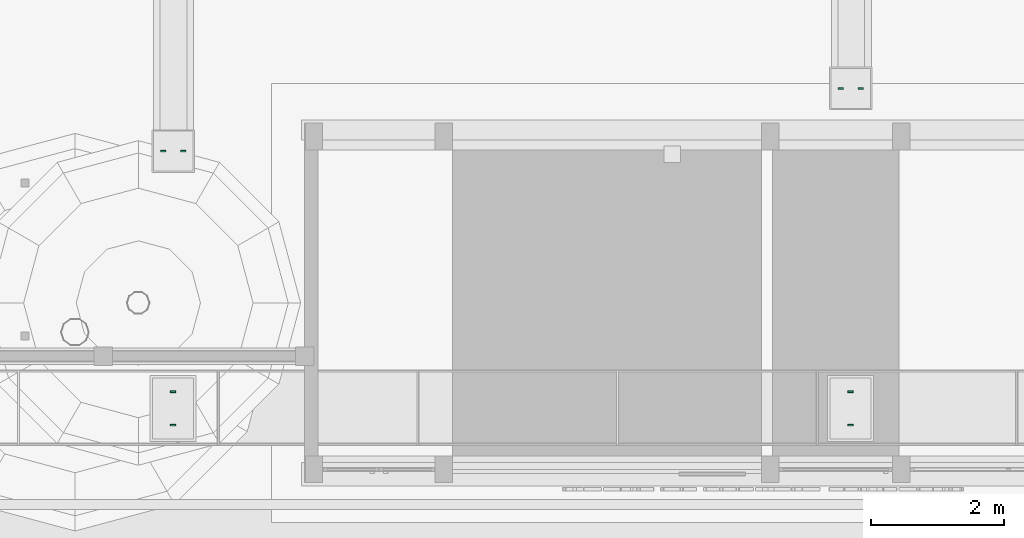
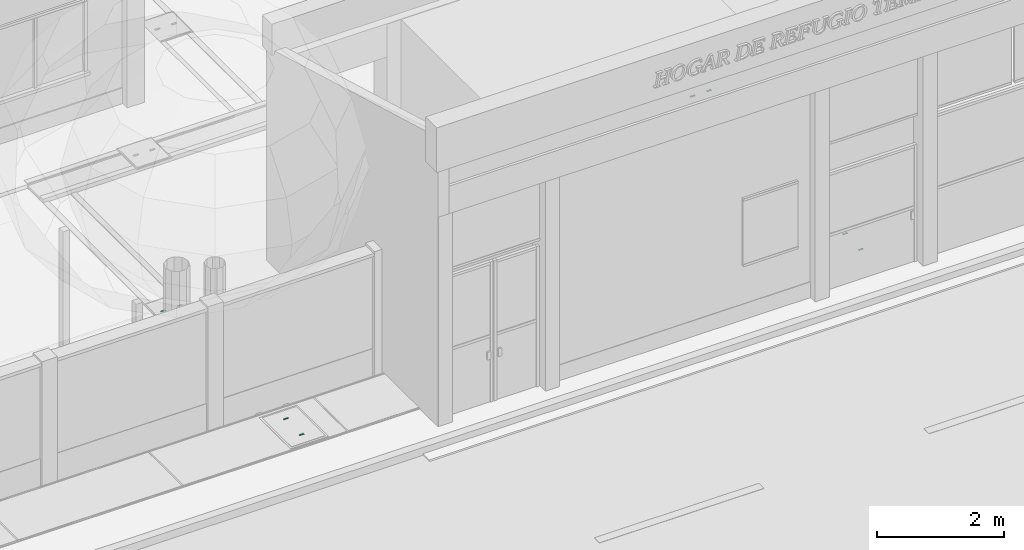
# One storey, part 133 of 177: 8 distribution chamber elements.
"""IFC4 building model written with IfcOpenShell, lengths in metres."""

import ifcopenshell
import ifcopenshell.guid

model = None  # the IFC model being written
_history = None  # IfcOwnerHistory: only IFC2X3 demands one
_inside = {}  # id of a spatial element -> (the spatial element, [elements in it])
_under = {}  # id of a project, library or spatial element -> (it, [spatial elements below it])
_declared = {}  # id of a project -> (the project, [libraries it declares])
_typed = {}  # id of a type object -> (the type object, [elements of that type])
_made_of = {}  # id of a material, layer set ... -> (it, [elements and type objects made of it])


def new_model(schema):
    """Start an empty IFC model of exactly this schema.

    Asked for "IFC4X3", IfcOpenShell would pick the latest addendum, in which some entities
    have other attributes; the version numbers below select the first issue.
    IFC2X3 requires an IfcOwnerHistory on every rooted entity: one is made here for all.
    """
    global model, _history
    if schema == "IFC4X3":
        model = ifcopenshell.file(schema_version=(4, 3, 0, 0))
    else:
        model = ifcopenshell.file(schema=schema)
    _inside.clear()
    _under.clear()
    _declared.clear()
    _typed.clear()
    _made_of.clear()
    _history = None
    if model.schema == "IFC2X3":
        org = make("IfcOrganization", Name="unknown")
        user = make(
            "IfcPersonAndOrganization",
            ThePerson=make("IfcPerson", FamilyName="unknown"),
            TheOrganization=org,
        )
        app = make(
            "IfcApplication",
            ApplicationDeveloper=org,
            Version="unknown",
            ApplicationFullName="unknown",
            ApplicationIdentifier="unknown",
        )
        _history = make(
            "IfcOwnerHistory",
            OwningUser=user,
            OwningApplication=app,
            ChangeAction="ADDED",
            CreationDate=0,
        )
    return model


def make(cls, **values):
    """One entity of the class cls with the attributes given. An attribute that is None is left unset."""
    return model.create_entity(
        cls, **{name: value for name, value in values.items() if value is not None}
    )


def rooted(cls, **values):
    """An entity with a GlobalId (a new one), such as an element, a storey or a relation."""
    return make(cls, GlobalId=ifcopenshell.guid.new(), OwnerHistory=_history, **values)


def si_unit(unit_type, name, prefix=None):
    """IfcSIUnit, for example si_unit("LENGTHUNIT", "METRE", prefix="MILLI")."""
    return make("IfcSIUnit", UnitType=unit_type, Prefix=prefix, Name=name)


def assignment(units):
    """IfcUnitAssignment: the units of a project."""
    return None if units is None else make("IfcUnitAssignment", Units=units)


def point(xyz):
    """IfcCartesianPoint."""
    return None if xyz is None else make("IfcCartesianPoint", Coordinates=xyz)


def direction(xyz):
    """IfcDirection."""
    return None if xyz is None else make("IfcDirection", DirectionRatios=xyz)


def frame(location, z_axis=None, x_axis=None):
    """IfcAxis2Placement3D, a coordinate frame: its origin and axes. An axis left out is left unset."""
    return make(
        "IfcAxis2Placement3D",
        Location=point(location),
        Axis=direction(z_axis),
        RefDirection=direction(x_axis),
    )


def origin():
    """The frame at (0, 0, 0) with its axes left unset."""
    return frame((0.0, 0.0, 0.0))


def origin_with_axes():
    """The frame at (0, 0, 0) with the z axis (0, 0, 1) and the x axis (1, 0, 0) written out."""
    return frame((0.0, 0.0, 0.0), z_axis=(0.0, 0.0, 1.0), x_axis=(1.0, 0.0, 0.0))


def place(relative_to, where):
    """IfcLocalPlacement: puts the frame where relative to a parent placement (None: the world)."""
    return make(
        "IfcLocalPlacement", PlacementRelTo=relative_to, RelativePlacement=where
    )


def context(
    kind, dimensions, precision=None, world=None, true_north=None, identifier=None
):
    """IfcGeometricRepresentationContext, for example the 3D "Model" context."""
    return make(
        "IfcGeometricRepresentationContext",
        ContextIdentifier=identifier,
        ContextType=kind,
        CoordinateSpaceDimension=dimensions,
        Precision=precision,
        WorldCoordinateSystem=world,
        TrueNorth=true_north,
    )


def subcontext(parent, identifier, kind, view, scale=None):
    """IfcGeometricRepresentationSubContext, for example "Body" below "Model"."""
    return make(
        "IfcGeometricRepresentationSubContext",
        ContextIdentifier=identifier,
        ContextType=kind,
        ParentContext=parent,
        TargetScale=scale,
        TargetView=view,
    )


def project(units=None, contexts=None):
    """IfcProject with its units and contexts."""
    return rooted(
        "IfcProject",
        Name="project",
        RepresentationContexts=contexts,
        UnitsInContext=assignment(units),
    )


def spatial(cls, under=None, at=None, **own):
    """A site, building, storey or space (cls), placed at a placement, below another one or the project."""
    s = rooted(cls, ObjectPlacement=at, **own)
    if under is not None:
        _under.setdefault(under.id(), (under, []))[1].append(s)
    return s


def point_list(points):
    """IfcCartesianPointList2D or 3D."""
    cls = (
        "IfcCartesianPointList2D" if len(points[0]) == 2 else "IfcCartesianPointList3D"
    )
    return make(cls, CoordList=points)


def triangles(points, corners, closed=None, point_numbers=None):
    """IfcTriangulatedFaceSet: each triangle names its three corners, points numbered from 1."""
    return make(
        "IfcTriangulatedFaceSet",
        Coordinates=point_list(points),
        Closed=closed,
        CoordIndex=corners,
        PnIndex=point_numbers,
    )


def shape(context_of_items, identifier, shape_type, items):
    """IfcShapeRepresentation: the items that make up one representation, for example the "Body"."""
    return make(
        "IfcShapeRepresentation",
        ContextOfItems=context_of_items,
        RepresentationIdentifier=identifier,
        RepresentationType=shape_type,
        Items=items,
    )


def made_of(thing, what):
    """Note that an element or type object is made of a material, layer set ...; save() writes the relation."""
    if what is not None:
        _made_of.setdefault(what.id(), (what, []))[1].append(thing)
    return thing


def element(
    cls,
    number,
    at=None,
    inside=None,
    cuts=None,
    type_object=None,
    material=None,
    context=None,
    identifier="Body",
    shape_type=None,
    held_by="IfcProductDefinitionShape",
    body=None,
    shapes=None,
    **own,
):
    """One element of the class cls, such as IfcWall. Its Tag is "e" and its number.

    at: its placement. inside: the storey or other place that contains it. cuts: it is an
    opening in that element (IfcRelVoidsElement). A single representation is given by context,
    identifier, shape_type and body (its items); several are given by shapes. held_by: the class
    of the entity that holds the representations. save() writes the other relations.
    """
    e = rooted(cls, Tag="e%d" % number, ObjectPlacement=at, **own)
    if body is not None:
        shapes = [shape(context, identifier, shape_type, body)]
    if shapes is not None:
        e.Representation = make(held_by, Representations=shapes)
    if inside is not None:
        _inside.setdefault(inside.id(), (inside, []))[1].append(e)
    if cuts is not None:
        rooted(
            "IfcRelVoidsElement", RelatingBuildingElement=cuts, RelatedOpeningElement=e
        )
    if type_object is not None:
        _typed.setdefault(type_object.id(), (type_object, []))[1].append(e)
    return made_of(e, material)


def aggregate(whole, parts):
    """IfcRelAggregates: a whole, such as a stair, and the parts it consists of."""
    return rooted("IfcRelAggregates", RelatingObject=whole, RelatedObjects=parts)


def save(model, path):
    """Write the relations noted so far, then the file.

    IfcRelAggregates (storeys below a building ...), IfcRelContainedInSpatialStructure (elements
    in a storey), IfcRelDefinesByType, IfcRelAssociatesMaterial and IfcRelDeclares: one each for
    every whole, place, type object, material and project.
    """
    for whole, parts in _under.values():
        aggregate(whole, parts)
    for where, things in _inside.values():
        rooted(
            "IfcRelContainedInSpatialStructure",
            RelatedElements=things,
            RelatingStructure=where,
        )
    for kind, things in _typed.values():
        rooted("IfcRelDefinesByType", RelatedObjects=things, RelatingType=kind)
    for what, things in _made_of.values():
        rooted("IfcRelAssociatesMaterial", RelatedObjects=things, RelatingMaterial=what)
    for by, libraries in _declared.values():
        rooted("IfcRelDeclares", RelatingContext=by, RelatedDefinitions=libraries)
    model.write(path)


model = new_model("IFC4")

# Units and contexts
model_context = context("Model", 3, precision=1e-05, world=origin_with_axes())
body_context = subcontext(model_context, "Body", "Model", "MODEL_VIEW")
ifc_project = project(units=[si_unit("LENGTHUNIT", "METRE"), si_unit("AREAUNIT", "SQUARE_METRE"), si_unit("VOLUMEUNIT", "CUBIC_METRE"), si_unit("PLANEANGLEUNIT", "RADIAN")], contexts=[model_context])

# Site, building, storey
site_placement = place(None, origin_with_axes())
site = spatial("IfcSite", under=ifc_project, at=site_placement, Name="Predio Los Mangos - Morales, San Martín", CompositionType="ELEMENT")
building_placement = place(site_placement, origin())
building = spatial("IfcBuilding", under=site, at=building_placement, Name="Hogar de Refugio Temporal", CompositionType="ELEMENT")
storey_placement = place(building_placement, origin())
storey = spatial("IfcBuildingStorey", under=building, at=storey_placement, Name="NIVEL 1 (NPT +0.00)", CompositionType="ELEMENT", Elevation=0.0)

# Distribution chamber elements
distribution_chamber_element_1_placement = place(storey_placement, origin())
element("IfcDistributionChamberElement", 1, at=distribution_chamber_element_1_placement, inside=storey, Name="tapa_insp_asa", ObjectType="Tapa de inspección", PredefinedType="INSPECTIONCHAMBER", context=body_context, shape_type="Tessellation", body=[
    triangles([(29.134, 21.068, 0.104), (29.214, 21.068, 0.104), (29.214, 21.092, 0.104), (29.134, 21.092, 0.104), (29.134, 21.068, 0.108), (29.214, 21.068, 0.108), (29.214, 21.092, 0.108), (29.134, 21.092, 0.108)], [[1, 4, 3], [1, 3, 2], [5, 6, 7], [5, 7, 8], [1, 2, 6], [1, 6, 5], [2, 3, 7], [2, 7, 6], [3, 4, 8], [3, 8, 7], [4, 1, 5], [4, 5, 8]]),
])
distribution_chamber_element_2_placement = place(storey_placement, origin())
element("IfcDistributionChamberElement", 2, at=distribution_chamber_element_2_placement, inside=storey, Name="tapa_insp_asa", ObjectType="Tapa de inspección", PredefinedType="INSPECTIONCHAMBER", context=body_context, shape_type="Tessellation", body=[
    triangles([(29.434, 21.068, 0.104), (29.514, 21.068, 0.104), (29.514, 21.092, 0.104), (29.434, 21.092, 0.104), (29.434, 21.068, 0.108), (29.514, 21.068, 0.108), (29.514, 21.092, 0.108), (29.434, 21.092, 0.108)], [[1, 4, 3], [1, 3, 2], [5, 6, 7], [5, 7, 8], [1, 2, 6], [1, 6, 5], [2, 3, 7], [2, 7, 6], [3, 4, 8], [3, 8, 7], [4, 1, 5], [4, 5, 8]]),
])
distribution_chamber_element_3_placement = place(storey_placement, origin())
element("IfcDistributionChamberElement", 3, at=distribution_chamber_element_3_placement, inside=storey, Name="tapa_insp_asa", ObjectType="Tapa de inspección", PredefinedType="INSPECTIONCHAMBER", context=body_context, shape_type="Tessellation", body=[
    triangles([(39.315, 22.011, 0.104), (39.395, 22.011, 0.104), (39.395, 22.035, 0.104), (39.315, 22.035, 0.104), (39.315, 22.011, 0.108), (39.395, 22.011, 0.108), (39.395, 22.035, 0.108), (39.315, 22.035, 0.108)], [[1, 4, 3], [1, 3, 2], [5, 6, 7], [5, 7, 8], [1, 2, 6], [1, 6, 5], [2, 3, 7], [2, 7, 6], [3, 4, 8], [3, 8, 7], [4, 1, 5], [4, 5, 8]]),
])
distribution_chamber_element_4_placement = place(storey_placement, origin())
element("IfcDistributionChamberElement", 4, at=distribution_chamber_element_4_placement, inside=storey, Name="tapa_insp_asa", ObjectType="Tapa de inspección", PredefinedType="INSPECTIONCHAMBER", context=body_context, shape_type="Tessellation", body=[
    triangles([(39.615, 22.011, 0.104), (39.695, 22.011, 0.104), (39.695, 22.035, 0.104), (39.615, 22.035, 0.104), (39.615, 22.011, 0.108), (39.695, 22.011, 0.108), (39.695, 22.035, 0.108), (39.615, 22.035, 0.108)], [[1, 4, 3], [1, 3, 2], [5, 6, 7], [5, 7, 8], [1, 2, 6], [1, 6, 5], [2, 3, 7], [2, 7, 6], [3, 4, 8], [3, 8, 7], [4, 1, 5], [4, 5, 8]]),
])
distribution_chamber_element_5_placement = place(storey_placement, origin())
element("IfcDistributionChamberElement", 5, at=distribution_chamber_element_5_placement, inside=storey, Name="tapa_asa", ObjectType="Tapa ciega de registro del colector", PredefinedType="INSPECTIONCHAMBER", context=body_context, shape_type="Tessellation", body=[
    triangles([(39.46, 16.953, 0.168), (39.54, 16.953, 0.168), (39.54, 16.977, 0.168), (39.46, 16.977, 0.168), (39.46, 16.953, 0.172), (39.54, 16.953, 0.172), (39.54, 16.977, 0.172), (39.46, 16.977, 0.172)], [[1, 4, 3], [1, 3, 2], [5, 6, 7], [5, 7, 8], [1, 2, 6], [1, 6, 5], [2, 3, 7], [2, 7, 6], [3, 4, 8], [3, 8, 7], [4, 1, 5], [4, 5, 8]]),
])
distribution_chamber_element_6_placement = place(storey_placement, origin())
element("IfcDistributionChamberElement", 6, at=distribution_chamber_element_6_placement, inside=storey, Name="tapa_asa", ObjectType="Tapa ciega de registro del colector", PredefinedType="INSPECTIONCHAMBER", context=body_context, shape_type="Tessellation", body=[
    triangles([(39.46, 17.453, 0.168), (39.54, 17.453, 0.168), (39.54, 17.477, 0.168), (39.46, 17.477, 0.168), (39.46, 17.453, 0.172), (39.54, 17.453, 0.172), (39.54, 17.477, 0.172), (39.46, 17.477, 0.172)], [[1, 4, 3], [1, 3, 2], [5, 6, 7], [5, 7, 8], [1, 2, 6], [1, 6, 5], [2, 3, 7], [2, 7, 6], [3, 4, 8], [3, 8, 7], [4, 1, 5], [4, 5, 8]]),
])
distribution_chamber_element_7_placement = place(storey_placement, origin())
element("IfcDistributionChamberElement", 7, at=distribution_chamber_element_7_placement, inside=storey, Name="tapa_asa", ObjectType="Tapa ciega de registro del colector", PredefinedType="INSPECTIONCHAMBER", context=body_context, shape_type="Tessellation", body=[
    triangles([(29.28, 16.953, 0.168), (29.36, 16.953, 0.168), (29.36, 16.977, 0.168), (29.28, 16.977, 0.168), (29.28, 16.953, 0.172), (29.36, 16.953, 0.172), (29.36, 16.977, 0.172), (29.28, 16.977, 0.172)], [[1, 4, 3], [1, 3, 2], [5, 6, 7], [5, 7, 8], [1, 2, 6], [1, 6, 5], [2, 3, 7], [2, 7, 6], [3, 4, 8], [3, 8, 7], [4, 1, 5], [4, 5, 8]]),
])
distribution_chamber_element_8_placement = place(storey_placement, origin())
element("IfcDistributionChamberElement", 8, at=distribution_chamber_element_8_placement, inside=storey, Name="tapa_asa", ObjectType="Tapa ciega de registro del colector", PredefinedType="INSPECTIONCHAMBER", context=body_context, shape_type="Tessellation", body=[
    triangles([(29.28, 17.453, 0.168), (29.36, 17.453, 0.168), (29.36, 17.477, 0.168), (29.28, 17.477, 0.168), (29.28, 17.453, 0.172), (29.36, 17.453, 0.172), (29.36, 17.477, 0.172), (29.28, 17.477, 0.172)], [[1, 4, 3], [1, 3, 2], [5, 6, 7], [5, 7, 8], [1, 2, 6], [1, 6, 5], [2, 3, 7], [2, 7, 6], [3, 4, 8], [3, 8, 7], [4, 1, 5], [4, 5, 8]]),
])

save(model, "model.ifc")
